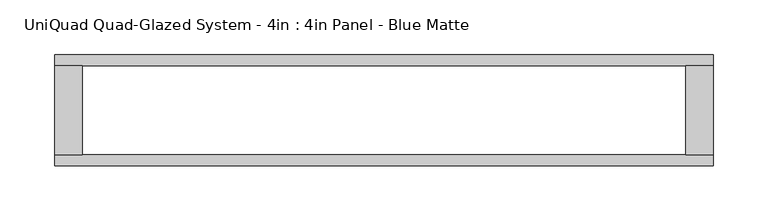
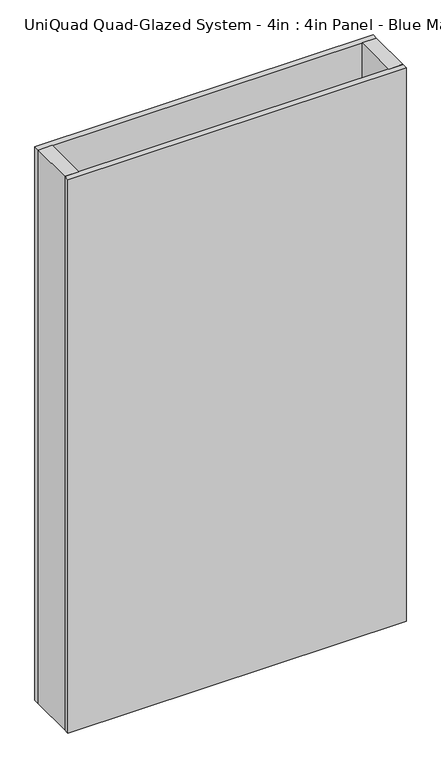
"""IFC4 building model written with IfcOpenShell, lengths in millimetres: plate geometry, UniQuad Quad-Glazed System - 4in : 4in Panel - Blue Matte."""

from ifc_helpers import new_model, si_unit, origin, origin_with_axes, place, context, project, spatial, polyline, outline, extrude, source, transform, mapped, element, save


def uniquad_quad_glazed_system_4in_4in_panel_blue_matte_2cbfe2ae(model_context):
    return source(origin(), model_context, "Body", "SweptSolid", [
        extrude(outline(polyline([(-300.9800781, 40.7924), (-275.5800781, 40.7924), (-275.5800781, -40.7924), (-300.9800781, -40.7924), (-300.9800781, 40.7924)])), origin_with_axes(), (0.0, 0.0, 1.0), 1041.4),
        extrude(outline(polyline([(300.9800781, 40.7924), (300.9800781, -40.7924), (275.5800781, -40.7924), (275.5800781, 40.7924), (300.9800781, 40.7924)])), origin_with_axes(), (0.0, 0.0, 1.0), 1041.4),
        extrude(outline(polyline([(300.9800781, -40.7924), (300.9800781, -50.8), (-300.9800781, -50.8), (-300.9800781, -40.7924), (300.9800781, -40.7924)])), origin_with_axes(), (0.0, 0.0, 1.0), 1041.4),
        extrude(outline(polyline([(300.9800781, 50.8), (300.9800781, 40.7924), (-300.9800781, 40.7924), (-300.9800781, 50.8), (300.9800781, 50.8)])), origin_with_axes(), (0.0, 0.0, 1.0), 1041.4),
    ])


if __name__ == "__main__":
    model = new_model("IFC4")
    model_context = context("Model", 3, world=origin())
    ifc_project = project(units=[si_unit("LENGTHUNIT", "METRE", prefix="MILLI")], contexts=[model_context])
    site = spatial("IfcSite", under=ifc_project)
    building = spatial("IfcBuilding", under=site)
    placement = place(None, origin())
    uniquad_quad_glazed_system_4in_4in_panel_blue_matte_shape = uniquad_quad_glazed_system_4in_4in_panel_blue_matte_2cbfe2ae(model_context)
    element("IfcPlate", 1, ObjectType="UniQuad Quad-Glazed System - 4in : 4in Panel - Blue Matte", at=placement, inside=building, context=model_context, shape_type="MappedRepresentation", body=[
        mapped(uniquad_quad_glazed_system_4in_4in_panel_blue_matte_shape, transform((0.0, 0.0, 0.0), x_axis=(1.0, 0.0, 0.0), y_axis=(0.0, 1.0, 0.0), z_axis=(0.0, 0.0, 1.0))),
    ])
    save(model, "model.ifc")
